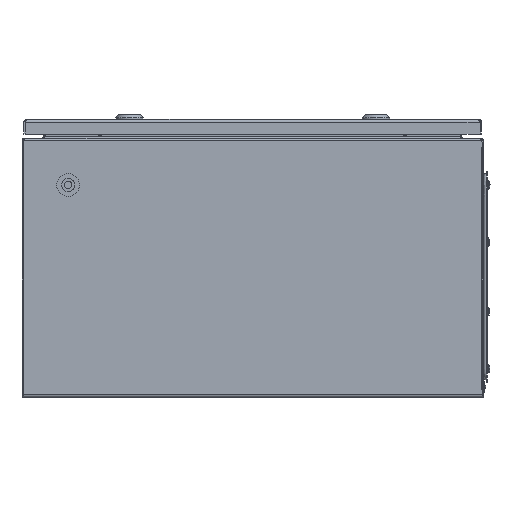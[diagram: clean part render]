
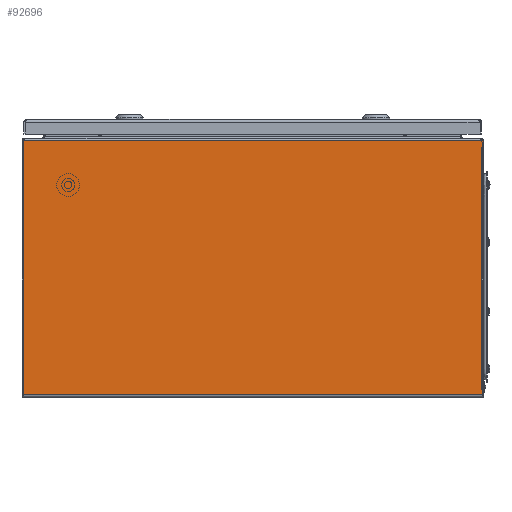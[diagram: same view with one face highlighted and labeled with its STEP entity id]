
A CAD part, left-side view. The second image highlights one B-rep face of the part: STEP entity #92696.
In plain terms, the highlighted planar face has unit normal (-1, 0, 0).
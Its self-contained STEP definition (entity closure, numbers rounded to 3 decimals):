
#314 = VECTOR ( 'NONE', #66834, 1000. ) ;
#2094 = ORIENTED_EDGE ( 'NONE', *, *, #63625, .F. ) ;
#2299 = CARTESIAN_POINT ( 'NONE',  ( -250., 250., -147.1 ) ) ;
#2797 = DIRECTION ( 'NONE',  ( 0., 0., 1. ) ) ;
#5348 = DIRECTION ( 'NONE',  ( 0., 0., 1. ) ) ;
#7345 = LINE ( 'NONE', #104025, #50597 ) ;
#7796 = VERTEX_POINT ( 'NONE', #45371 ) ;
#7871 = VECTOR ( 'NONE', #80165, 1000. ) ;
#9376 = VERTEX_POINT ( 'NONE', #59635 ) ;
#9902 = VERTEX_POINT ( 'NONE', #38143 ) ;
#10610 = LINE ( 'NONE', #63980, #51798 ) ;
#13155 = VERTEX_POINT ( 'NONE', #56624 ) ;
#13780 = VERTEX_POINT ( 'NONE', #86568 ) ;
#14436 = ORIENTED_EDGE ( 'NONE', *, *, #66894, .T. ) ;
#15083 = VECTOR ( 'NONE', #2797, 1000. ) ;
#16100 = LINE ( 'NONE', #79991, #19131 ) ;
#18257 = ORIENTED_EDGE ( 'NONE', *, *, #100060, .F. ) ;
#19131 = VECTOR ( 'NONE', #52530, 1000. ) ;
#19261 = VECTOR ( 'NONE', #112419, 1000. ) ;
#20496 = EDGE_CURVE ( 'NONE', #13780, #33412, #70810, .T. ) ;
#21038 = LINE ( 'NONE', #84936, #19261 ) ;
#22220 = CARTESIAN_POINT ( 'NONE',  ( -250., -248.5, -142. ) ) ;
#22552 = LINE ( 'NONE', #85885, #36014 ) ;
#22806 = EDGE_LOOP ( 'NONE', ( #31075, #18257, #63117, #94684, #14436, #107457, #24694, #56314, #31338, #50013, #80646, #2094, #74548, #102950, #60965, #37122 ) ) ;
#22913 = EDGE_CURVE ( 'NONE', #110339, #9376, #73755, .T. ) ;
#22919 = CARTESIAN_POINT ( 'NONE',  ( -250., -250., -142. ) ) ;
#23095 = VECTOR ( 'NONE', #103304, 1000. ) ;
#24197 = CARTESIAN_POINT ( 'NONE',  ( -250., -250., -142. ) ) ;
#24694 = ORIENTED_EDGE ( 'NONE', *, *, #111302, .F. ) ;
#25879 = CARTESIAN_POINT ( 'NONE',  ( -250., 248.5, 127.8 ) ) ;
#26436 = LINE ( 'NONE', #25879, #112944 ) ;
#27703 = VECTOR ( 'NONE', #98286, 1000. ) ;
#29154 = VECTOR ( 'NONE', #97726, 1000. ) ;
#29507 = VERTEX_POINT ( 'NONE', #22220 ) ;
#30680 = DIRECTION ( 'NONE',  ( 0., 0., -1. ) ) ;
#31075 = ORIENTED_EDGE ( 'NONE', *, *, #109336, .F. ) ;
#31338 = ORIENTED_EDGE ( 'NONE', *, *, #66602, .T. ) ;
#31386 = DIRECTION ( 'NONE',  ( 0., 0., -1. ) ) ;
#31539 = VERTEX_POINT ( 'NONE', #109593 ) ;
#32174 = LINE ( 'NONE', #45050, #7871 ) ;
#33359 = DIRECTION ( 'NONE',  ( 0., 0., 1. ) ) ;
#33412 = VERTEX_POINT ( 'NONE', #66341 ) ;
#34564 = VERTEX_POINT ( 'NONE', #66371 ) ;
#35030 = AXIS2_PLACEMENT_3D ( 'NONE', #70305, #96629, #33359 ) ;
#36014 = VECTOR ( 'NONE', #84137, 1000. ) ;
#36076 = EDGE_CURVE ( 'NONE', #9902, #29507, #113265, .T. ) ;
#37122 = ORIENTED_EDGE ( 'NONE', *, *, #84847, .F. ) ;
#37754 = CARTESIAN_POINT ( 'NONE',  ( -250., -248.317, 127.8 ) ) ;
#38143 = CARTESIAN_POINT ( 'NONE',  ( -250., -250., -142. ) ) ;
#39775 = DIRECTION ( 'NONE',  ( 0., 0., 1. ) ) ;
#40653 = EDGE_CURVE ( 'NONE', #66594, #92654, #32174, .T. ) ;
#40993 = CARTESIAN_POINT ( 'NONE',  ( -250., -250., 127.7 ) ) ;
#44439 = CARTESIAN_POINT ( 'NONE',  ( -250., -250., 121.2 ) ) ;
#45050 = CARTESIAN_POINT ( 'NONE',  ( -250., 248.5, 127.7 ) ) ;
#45371 = CARTESIAN_POINT ( 'NONE',  ( -250., -250., -147.1 ) ) ;
#46542 = VECTOR ( 'NONE', #111566, 1000. ) ;
#46603 = LINE ( 'NONE', #56571, #63435 ) ;
#47299 = LINE ( 'NONE', #90617, #27703 ) ;
#48037 = LINE ( 'NONE', #74918, #95510 ) ;
#50013 = ORIENTED_EDGE ( 'NONE', *, *, #55436, .T. ) ;
#50597 = VECTOR ( 'NONE', #31386, 1000. ) ;
#51798 = VECTOR ( 'NONE', #116072, 1000. ) ;
#52530 = DIRECTION ( 'NONE',  ( 0., 0., 1. ) ) ;
#55084 = CARTESIAN_POINT ( 'NONE',  ( -250., 250., -142. ) ) ;
#55436 = EDGE_CURVE ( 'NONE', #7796, #9902, #75681, .T. ) ;
#56314 = ORIENTED_EDGE ( 'NONE', *, *, #22913, .F. ) ;
#56571 = CARTESIAN_POINT ( 'NONE',  ( -250., -248.317, -150. ) ) ;
#56624 = CARTESIAN_POINT ( 'NONE',  ( -250., 248.317, 127.8 ) ) ;
#58853 = VECTOR ( 'NONE', #5348, 1000. ) ;
#59635 = CARTESIAN_POINT ( 'NONE',  ( -250., 250., -142. ) ) ;
#60965 = ORIENTED_EDGE ( 'NONE', *, *, #40653, .T. ) ;
#63117 = ORIENTED_EDGE ( 'NONE', *, *, #81716, .F. ) ;
#63435 = VECTOR ( 'NONE', #30680, 1000. ) ;
#63625 = EDGE_CURVE ( 'NONE', #33412, #29507, #7345, .T. ) ;
#63980 = CARTESIAN_POINT ( 'NONE',  ( -250., 250., -142. ) ) ;
#66341 = CARTESIAN_POINT ( 'NONE',  ( -250., -248.5, 121.2 ) ) ;
#66371 = CARTESIAN_POINT ( 'NONE',  ( -250., 248.317, 127.7 ) ) ;
#66594 = VERTEX_POINT ( 'NONE', #40993 ) ;
#66602 = EDGE_CURVE ( 'NONE', #110339, #7796, #103667, .T. ) ;
#66834 = DIRECTION ( 'NONE',  ( 0., -1., 0. ) ) ;
#66894 = EDGE_CURVE ( 'NONE', #73482, #108401, #22552, .T. ) ;
#67067 = LINE ( 'NONE', #67618, #23095 ) ;
#67618 = CARTESIAN_POINT ( 'NONE',  ( -250., 250., 127.7 ) ) ;
#70305 = CARTESIAN_POINT ( 'NONE',  ( -250., 248.5, -150. ) ) ;
#70810 = LINE ( 'NONE', #44439, #29154 ) ;
#73382 = CARTESIAN_POINT ( 'NONE',  ( -250., 248.5, -142. ) ) ;
#73482 = VERTEX_POINT ( 'NONE', #88842 ) ;
#73755 = LINE ( 'NONE', #55084, #15083 ) ;
#74548 = ORIENTED_EDGE ( 'NONE', *, *, #20496, .F. ) ;
#74918 = CARTESIAN_POINT ( 'NONE',  ( -250., 248.317, -150. ) ) ;
#75681 = LINE ( 'NONE', #22919, #58853 ) ;
#78795 = EDGE_CURVE ( 'NONE', #108401, #105334, #47299, .T. ) ;
#79991 = CARTESIAN_POINT ( 'NONE',  ( -250., -250., 127.7 ) ) ;
#80165 = DIRECTION ( 'NONE',  ( 0., 1., 0. ) ) ;
#80646 = ORIENTED_EDGE ( 'NONE', *, *, #36076, .T. ) ;
#81716 = EDGE_CURVE ( 'NONE', #31539, #34564, #21038, .T. ) ;
#82235 = EDGE_CURVE ( 'NONE', #73482, #31539, #67067, .T. ) ;
#84137 = DIRECTION ( 'NONE',  ( 0., -1., 0. ) ) ;
#84847 = EDGE_CURVE ( 'NONE', #115528, #92654, #46603, .T. ) ;
#84936 = CARTESIAN_POINT ( 'NONE',  ( -250., 248.5, 127.7 ) ) ;
#85885 = CARTESIAN_POINT ( 'NONE',  ( -250., 250., 121.2 ) ) ;
#86568 = CARTESIAN_POINT ( 'NONE',  ( -250., -250., 121.2 ) ) ;
#88829 = EDGE_CURVE ( 'NONE', #13780, #66594, #16100, .T. ) ;
#88842 = CARTESIAN_POINT ( 'NONE',  ( -250., 250., 121.2 ) ) ;
#90617 = CARTESIAN_POINT ( 'NONE',  ( -250., 248.5, -150. ) ) ;
#92654 = VERTEX_POINT ( 'NONE', #93750 ) ;
#92696 = ADVANCED_FACE ( 'NONE', ( #95474 ), #112445, .T. ) ;
#93750 = CARTESIAN_POINT ( 'NONE',  ( -250., -248.317, 127.7 ) ) ;
#94684 = ORIENTED_EDGE ( 'NONE', *, *, #82235, .F. ) ;
#95474 = FACE_OUTER_BOUND ( 'NONE', #22806, .T. ) ;
#95510 = VECTOR ( 'NONE', #39775, 1000. ) ;
#96629 = DIRECTION ( 'NONE',  ( -1., 0., 0. ) ) ;
#97423 = DIRECTION ( 'NONE',  ( 0., -1., 0. ) ) ;
#97726 = DIRECTION ( 'NONE',  ( 0., 1., 0. ) ) ;
#98286 = DIRECTION ( 'NONE',  ( 0., 0., -1. ) ) ;
#100060 = EDGE_CURVE ( 'NONE', #34564, #13155, #48037, .T. ) ;
#101399 = CARTESIAN_POINT ( 'NONE',  ( -250., 248.5, 121.2 ) ) ;
#102950 = ORIENTED_EDGE ( 'NONE', *, *, #88829, .T. ) ;
#103065 = CARTESIAN_POINT ( 'NONE',  ( -250., 248.5, -147.1 ) ) ;
#103304 = DIRECTION ( 'NONE',  ( 0., 0., 1. ) ) ;
#103667 = LINE ( 'NONE', #103065, #314 ) ;
#104025 = CARTESIAN_POINT ( 'NONE',  ( -250., -248.5, -150. ) ) ;
#105334 = VERTEX_POINT ( 'NONE', #73382 ) ;
#107457 = ORIENTED_EDGE ( 'NONE', *, *, #78795, .T. ) ;
#108401 = VERTEX_POINT ( 'NONE', #101399 ) ;
#109336 = EDGE_CURVE ( 'NONE', #13155, #115528, #26436, .T. ) ;
#109593 = CARTESIAN_POINT ( 'NONE',  ( -250., 250., 127.7 ) ) ;
#110339 = VERTEX_POINT ( 'NONE', #2299 ) ;
#111302 = EDGE_CURVE ( 'NONE', #9376, #105334, #10610, .T. ) ;
#111566 = DIRECTION ( 'NONE',  ( 0., 1., 0. ) ) ;
#112419 = DIRECTION ( 'NONE',  ( 0., -1., 0. ) ) ;
#112445 = PLANE ( 'NONE',  #35030 ) ;
#112944 = VECTOR ( 'NONE', #97423, 1000. ) ;
#113265 = LINE ( 'NONE', #24197, #46542 ) ;
#115528 = VERTEX_POINT ( 'NONE', #37754 ) ;
#116072 = DIRECTION ( 'NONE',  ( 0., -1., 0. ) ) ;
